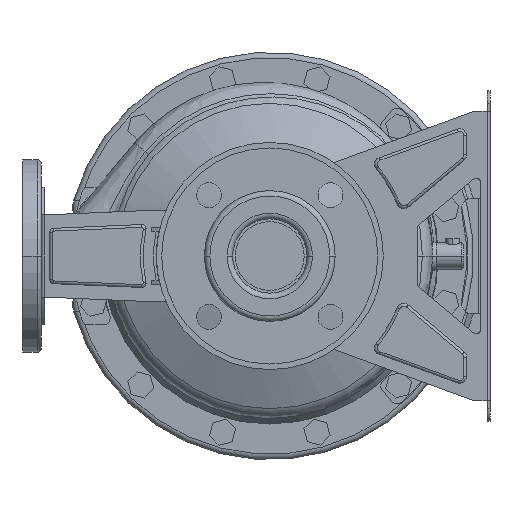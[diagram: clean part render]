
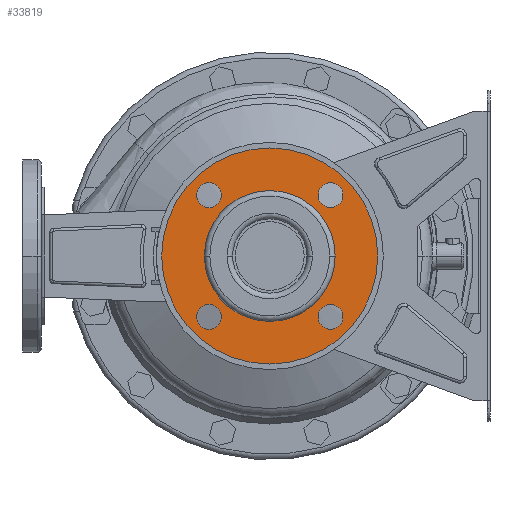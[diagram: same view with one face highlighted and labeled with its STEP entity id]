
A CAD part, front view. The second image highlights one B-rep face of the part: STEP entity #33819.
In plain terms, the highlighted planar face has unit normal (0, -1, 0) as drawn and (-1, 0, 0) by its records, which use the part's own axes.
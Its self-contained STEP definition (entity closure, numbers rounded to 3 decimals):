
#33152=CARTESIAN_POINT('',(12.,0.,0.));
#33153=DIRECTION('',(-1.,0.,0.));
#33154=DIRECTION('',(0.,1.,0.));
#33155=AXIS2_PLACEMENT_3D('',#33152,#33153,#33154);
#33160=CARTESIAN_POINT('',(12.,0.,0.));
#33161=DIRECTION('',(1.,0.,0.));
#33162=DIRECTION('',(0.,1.,0.));
#33163=AXIS2_PLACEMENT_3D('',#33160,#33161,#33162);
#33168=CARTESIAN_POINT('',(12.,-44.194,44.194));
#33169=DIRECTION('',(1.,0.,0.));
#33170=DIRECTION('',(0.,1.,0.));
#33171=AXIS2_PLACEMENT_3D('',#33168,#33169,#33170);
#33176=CARTESIAN_POINT('',(12.,-44.194,44.194));
#33177=DIRECTION('',(1.,0.,0.));
#33178=DIRECTION('',(0.,-1.,0.));
#33179=AXIS2_PLACEMENT_3D('',#33176,#33177,#33178);
#33184=CARTESIAN_POINT('',(12.,-44.194,-44.194));
#33185=DIRECTION('',(1.,0.,0.));
#33186=DIRECTION('',(0.,0.,1.));
#33187=AXIS2_PLACEMENT_3D('',#33184,#33185,#33186);
#33192=CARTESIAN_POINT('',(12.,-44.194,-44.194));
#33193=DIRECTION('',(1.,0.,0.));
#33194=DIRECTION('',(0.,0.,-1.));
#33195=AXIS2_PLACEMENT_3D('',#33192,#33193,#33194);
#33200=CARTESIAN_POINT('',(12.,44.194,-44.194));
#33201=DIRECTION('',(1.,0.,0.));
#33202=DIRECTION('',(0.,-1.,0.));
#33203=AXIS2_PLACEMENT_3D('',#33200,#33201,#33202);
#33208=CARTESIAN_POINT('',(12.,44.194,-44.194));
#33209=DIRECTION('',(1.,0.,0.));
#33210=DIRECTION('',(0.,1.,0.));
#33211=AXIS2_PLACEMENT_3D('',#33208,#33209,#33210);
#33216=CARTESIAN_POINT('',(12.,44.194,44.194));
#33217=DIRECTION('',(1.,0.,0.));
#33218=DIRECTION('',(0.,0.,-1.));
#33219=AXIS2_PLACEMENT_3D('',#33216,#33217,#33218);
#33224=CARTESIAN_POINT('',(12.,44.194,44.194));
#33225=DIRECTION('',(1.,0.,0.));
#33226=DIRECTION('',(0.,0.,1.));
#33227=AXIS2_PLACEMENT_3D('',#33224,#33225,#33226);
#33232=CARTESIAN_POINT('',(12.,0.,0.));
#33233=DIRECTION('',(1.,0.,0.));
#33234=DIRECTION('',(0.,1.,0.));
#33235=AXIS2_PLACEMENT_3D('',#33232,#33233,#33234);
#33254=CARTESIAN_POINT('',(12.,0.,0.));
#33255=DIRECTION('',(-1.,0.,0.));
#33256=DIRECTION('',(0.,1.,0.));
#33257=AXIS2_PLACEMENT_3D('',#33254,#33255,#33256);
#33419=CARTESIAN_POINT('',(12.,78.5,0.));
#33421=VERTEX_POINT('',#33419);
#33422=CARTESIAN_POINT('',(12.,47.5,0.));
#33424=VERTEX_POINT('',#33422);
#33451=CARTESIAN_POINT('',(12.,-78.5,0.));
#33453=VERTEX_POINT('',#33451);
#33454=CARTESIAN_POINT('',(12.,-47.5,0.));
#33456=VERTEX_POINT('',#33454);
#33466=CARTESIAN_POINT('',(12.,-35.194,44.194));
#33467=CARTESIAN_POINT('',(12.,-53.194,44.194));
#33468=VERTEX_POINT('',#33466);
#33469=VERTEX_POINT('',#33467);
#33474=CARTESIAN_POINT('',(12.,-44.194,-35.194));
#33475=CARTESIAN_POINT('',(12.,-44.194,-53.194));
#33476=VERTEX_POINT('',#33474);
#33477=VERTEX_POINT('',#33475);
#33482=CARTESIAN_POINT('',(12.,35.194,-44.194));
#33483=CARTESIAN_POINT('',(12.,53.194,-44.194));
#33484=VERTEX_POINT('',#33482);
#33485=VERTEX_POINT('',#33483);
#33490=CARTESIAN_POINT('',(12.,44.194,35.194));
#33491=CARTESIAN_POINT('',(12.,44.194,53.194));
#33492=VERTEX_POINT('',#33490);
#33493=VERTEX_POINT('',#33491);
#33780=CARTESIAN_POINT('',(12.,0.,0.));
#33781=DIRECTION('',(1.,0.,0.));
#33782=DIRECTION('',(0.,-1.,0.));
#33783=AXIS2_PLACEMENT_3D('',#33780,#33781,#33782);
#33784=PLANE('',#33783);
#33785=ORIENTED_EDGE('',*,*,#33773,.F.);
#33786=ORIENTED_EDGE('',*,*,#33762,.T.);
#33787=EDGE_LOOP('',(#33785,#33786));
#33788=FACE_OUTER_BOUND('',#33787,.F.);
#33790=ORIENTED_EDGE('',*,*,#33789,.F.);
#33792=ORIENTED_EDGE('',*,*,#33791,.T.);
#33793=EDGE_LOOP('',(#33790,#33792));
#33794=FACE_BOUND('',#33793,.F.);
#33796=ORIENTED_EDGE('',*,*,#33795,.F.);
#33798=ORIENTED_EDGE('',*,*,#33797,.F.);
#33799=EDGE_LOOP('',(#33796,#33798));
#33800=FACE_BOUND('',#33799,.F.);
#33802=ORIENTED_EDGE('',*,*,#33801,.F.);
#33804=ORIENTED_EDGE('',*,*,#33803,.F.);
#33805=EDGE_LOOP('',(#33802,#33804));
#33806=FACE_BOUND('',#33805,.F.);
#33808=ORIENTED_EDGE('',*,*,#33807,.F.);
#33810=ORIENTED_EDGE('',*,*,#33809,.F.);
#33811=EDGE_LOOP('',(#33808,#33810));
#33812=FACE_BOUND('',#33811,.F.);
#33814=ORIENTED_EDGE('',*,*,#33813,.F.);
#33816=ORIENTED_EDGE('',*,*,#33815,.F.);
#33817=EDGE_LOOP('',(#33814,#33816));
#33818=FACE_BOUND('',#33817,.F.);
#33156=CIRCLE('',#33155,78.5);
#33164=CIRCLE('',#33163,78.5);
#33172=CIRCLE('',#33171,9.);
#33180=CIRCLE('',#33179,9.);
#33188=CIRCLE('',#33187,9.);
#33196=CIRCLE('',#33195,9.);
#33204=CIRCLE('',#33203,9.);
#33212=CIRCLE('',#33211,9.);
#33220=CIRCLE('',#33219,9.);
#33228=CIRCLE('',#33227,9.);
#33236=CIRCLE('',#33235,47.5);
#33258=CIRCLE('',#33257,47.5);
#33762=EDGE_CURVE('',#33421,#33453,#33164,.T.);
#33773=EDGE_CURVE('',#33421,#33453,#33156,.T.);
#33789=EDGE_CURVE('',#33424,#33456,#33236,.T.);
#33791=EDGE_CURVE('',#33424,#33456,#33258,.T.);
#33795=EDGE_CURVE('',#33468,#33469,#33172,.T.);
#33797=EDGE_CURVE('',#33469,#33468,#33180,.T.);
#33801=EDGE_CURVE('',#33476,#33477,#33188,.T.);
#33803=EDGE_CURVE('',#33477,#33476,#33196,.T.);
#33807=EDGE_CURVE('',#33484,#33485,#33204,.T.);
#33809=EDGE_CURVE('',#33485,#33484,#33212,.T.);
#33813=EDGE_CURVE('',#33492,#33493,#33220,.T.);
#33815=EDGE_CURVE('',#33493,#33492,#33228,.T.);
#33819=ADVANCED_FACE('',(#33788,#33794,#33800,#33806,#33812,#33818),#33784,.F.);
